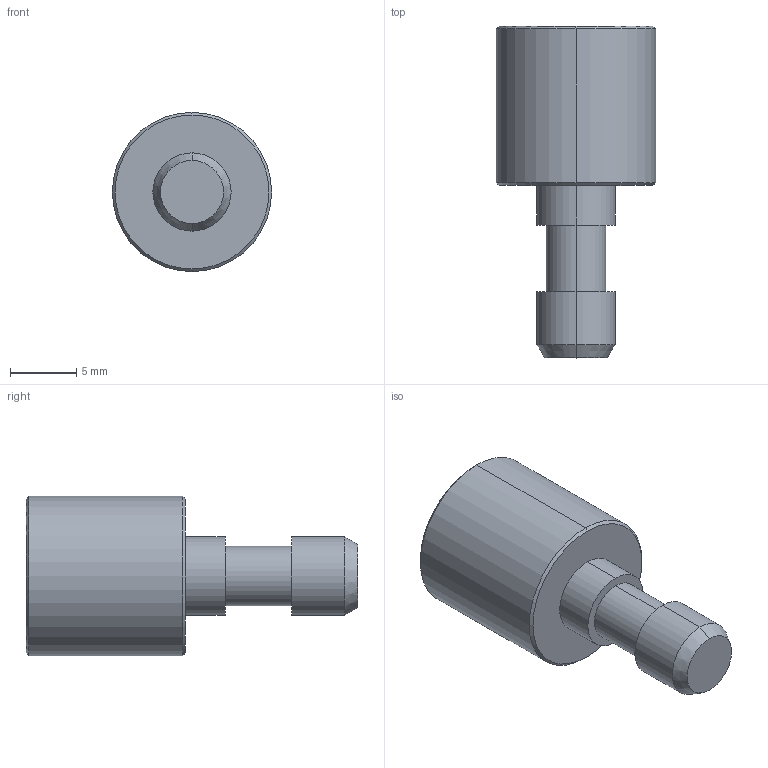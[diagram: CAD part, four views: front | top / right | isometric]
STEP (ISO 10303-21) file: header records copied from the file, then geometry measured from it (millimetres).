
FILE_DESCRIPTION((''),'2;1');
FILE_NAME('7472D00620','2015-04-22T',('mla1hc'),(''),'PRO/ENGINEER BY PARAMETRIC TECHNOLOGY CORPORATION, 2011490','PRO/ENGINEER BY PARAMETRIC TECHNOLOGY CORPORATION, 2011490','');
FILE_SCHEMA(('AUTOMOTIVE_DESIGN_CC2 { 1 2 10303 214 -1 1 5 2 }'));
Length unit declared in the file: millimetre
Products named in the file (1): 7472D00620
Bounding box: 12 x 25 x 12 mm (x, y, z)
Volume: 1648.9 mm3; surface area: 902.6 mm2
Topology: 1 solids, 1 shells, 19 faces, 36 edges, 22 vertices
Faces by surface type: cylinder 8, cone 6, plane 5
Entity records: 493 total; most frequent: DIRECTION 96, CARTESIAN_POINT 77, ORIENTED_EDGE 72, AXIS2_PLACEMENT_3D 41, EDGE_CURVE 36, VERTEX_POINT 22, EDGE_LOOP 22, CIRCLE 22
